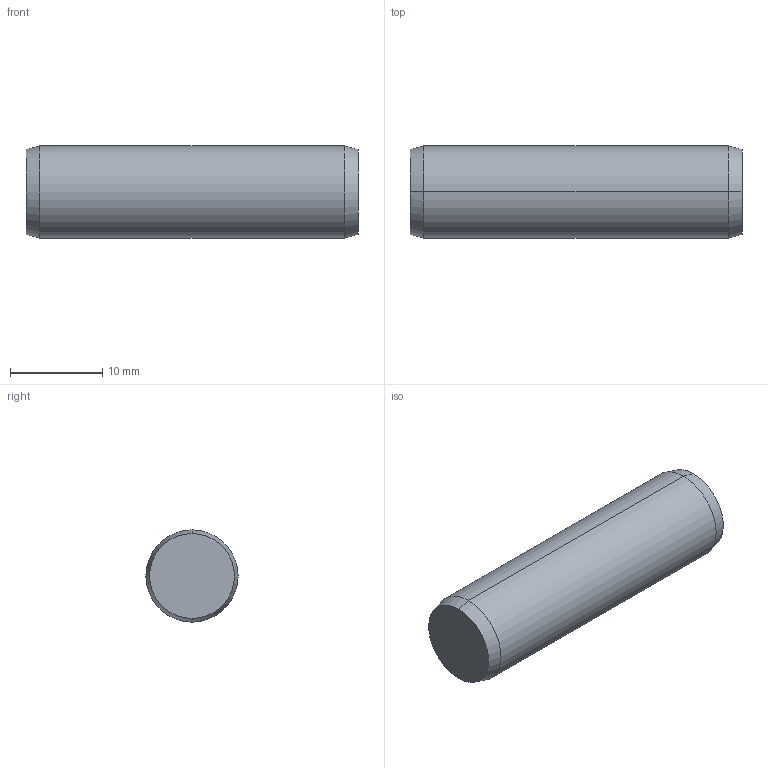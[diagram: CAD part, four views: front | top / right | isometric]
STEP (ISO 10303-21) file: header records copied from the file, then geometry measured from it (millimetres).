
FILE_DESCRIPTION (( 'STEP AP203' ), '1' );
FILE_NAME ('P1206.100-036.step', '2017-06-14T08:32:29', ( 'User' ), ( '' ), 'SwSTEP 2.0', 'SolidWorks 2009', '' );
FILE_SCHEMA (( 'CONFIG_CONTROL_DESIGN' ));
Length unit declared in the file: millimetre
Products named in the file (1): P1206.100-036
Bounding box: 36 x 10 x 10 mm (x, y, z)
Volume: 2809 mm3; surface area: 1263.2 mm2
Topology: 1 solids, 1 shells, 8 faces, 14 edges, 8 vertices
Faces by surface type: cone 4, cylinder 2, plane 2
Entity records: 271 total; most frequent: DIRECTION 40, CARTESIAN_POINT 31, ORIENTED_EDGE 28, AXIS2_PLACEMENT_3D 17, EDGE_CURVE 14, PERSON_AND_ORGANIZATION 8, ADVANCED_FACE 8, EDGE_LOOP 8
